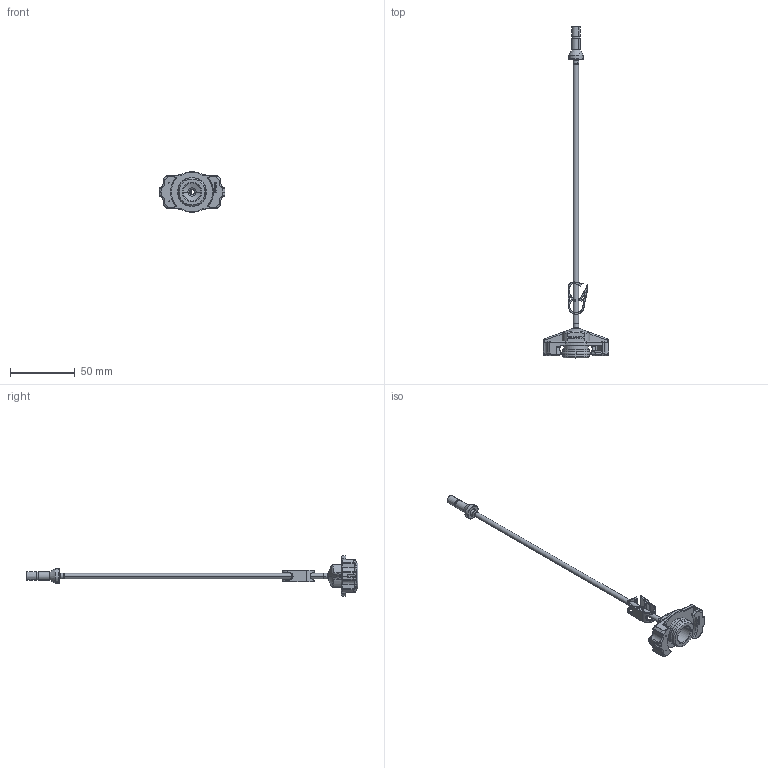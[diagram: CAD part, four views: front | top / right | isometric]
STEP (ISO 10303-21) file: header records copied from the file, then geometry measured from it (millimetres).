
FILE_DESCRIPTION (( 'STEP AP214' ), '1' );
FILE_NAME ('8001017_CUS.STEP', '2022-07-06T13:50:39', ( '' ), ( '' ), 'SwSTEP 2.0', 'SolidWorks 2020', '' );
FILE_SCHEMA (( 'AUTOMOTIVE_DESIGN' ));
Length unit declared in the file: millimetre
Products named in the file (1): 8001017_CUS
Bounding box: 50.9 x 256.2 x 31.3 mm (x, y, z)
Surface area: 11491.5 mm2 (no closed solid volume)
Topology: 0 solids, 22 shells, 480 faces, 1771 edges, 1247 vertices
Faces by surface type: cylinder 199, plane 125, torus 77, bspline 52, sphere 14, cone 13
Entity records: 29005 total; most frequent: CARTESIAN_POINT 9781, DIRECTION 2805, ORIENTED_EDGE 2654, EDGE_CURVE 1757, VERTEX_POINT 1246, AXIS2_PLACEMENT_3D 1003, VECTOR 799, LINE 799
